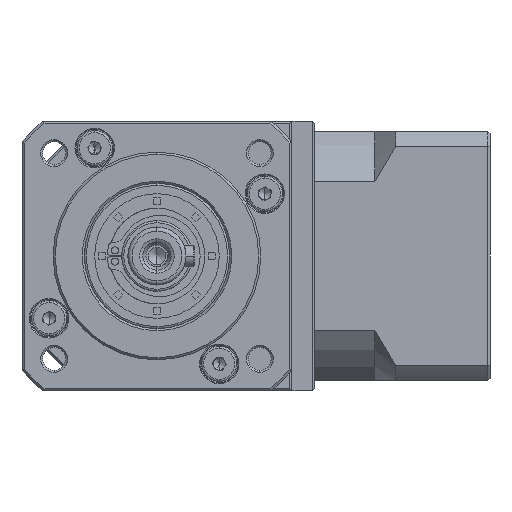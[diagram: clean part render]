
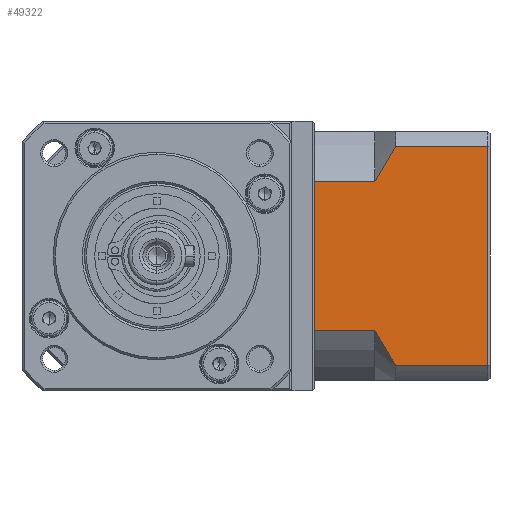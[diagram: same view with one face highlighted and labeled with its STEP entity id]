
A CAD part, left-side view. The second image highlights one B-rep face of the part: STEP entity #49322.
In plain terms, the highlighted planar face has unit normal (-1, 0, 0).
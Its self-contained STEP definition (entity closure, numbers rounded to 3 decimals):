
#1155 = ORIENTED_EDGE ( 'NONE', *, *, #34444, .F. ) ;
#2850 = CARTESIAN_POINT ( 'NONE',  ( 16.666, 3.458, 82.7 ) ) ;
#4746 = CARTESIAN_POINT ( 'NONE',  ( 16.666, -16.042, 86.242 ) ) ;
#6900 = ORIENTED_EDGE ( 'NONE', *, *, #90478, .F. ) ;
#7075 = DIRECTION ( 'NONE',  ( 0., 1., 0. ) ) ;
#7473 = CARTESIAN_POINT ( 'NONE',  ( 16.666, -38.242, 86.242 ) ) ;
#8081 = LINE ( 'NONE', #92946, #139015 ) ;
#10685 = AXIS2_PLACEMENT_3D ( 'NONE', #151334, #75192, #164010 ) ;
#11706 = DIRECTION ( 'NONE',  ( 0., -1., 0. ) ) ;
#18620 = CARTESIAN_POINT ( 'NONE',  ( 16.666, -14.27, 136.419 ) ) ;
#19741 = EDGE_CURVE ( 'NONE', #121118, #79832, #106049, .T. ) ;
#20076 = ORIENTED_EDGE ( 'NONE', *, *, #137047, .T. ) ;
#20712 = ORIENTED_EDGE ( 'NONE', *, *, #114582, .T. ) ;
#21124 = CARTESIAN_POINT ( 'NONE',  ( 16.666, -38.242, 82.7 ) ) ;
#34444 = EDGE_CURVE ( 'NONE', #64197, #101096, #86023, .T. ) ;
#37302 = CARTESIAN_POINT ( 'NONE',  ( 16.666, 3.458, 130.728 ) ) ;
#42605 = DIRECTION ( 'NONE',  ( 0., 1., 0. ) ) ;
#43284 = EDGE_CURVE ( 'NONE', #121118, #48441, #104431, .T. ) ;
#45398 = LINE ( 'NONE', #2850, #71034 ) ;
#46444 = EDGE_LOOP ( 'NONE', ( #108169, #20076, #51020, #132151, #6900, #20712, #1155, #135924 ) ) ;
#48441 = VERTEX_POINT ( 'NONE', #85853 ) ;
#49322 = ADVANCED_FACE ( 'NONE', ( #83334 ), #100146, .F. ) ;
#49449 = CARTESIAN_POINT ( 'NONE',  ( 16.666, -11.042, 139.158 ) ) ;
#51020 = ORIENTED_EDGE ( 'NONE', *, *, #19741, .F. ) ;
#55237 = CARTESIAN_POINT ( 'NONE',  ( 16.666, -11.042, 94.672 ) ) ;
#56558 = VERTEX_POINT ( 'NONE', #155170 ) ;
#56859 = CARTESIAN_POINT ( 'NONE',  ( 16.666, -12.594, 133.611 ) ) ;
#64197 = VERTEX_POINT ( 'NONE', #114774 ) ;
#67469 = B_SPLINE_CURVE_WITH_KNOTS ( 'NONE', 3,
 ( #55237, #143969, #67955, #156709, #80674, #4746 ),
 .UNSPECIFIED., .F., .F.,
 ( 4, 2, 4 ),
 ( 0.1, 0.104, 0.109 ),
 .UNSPECIFIED. ) ;
#67955 = CARTESIAN_POINT ( 'NONE',  ( 16.666, -12.593, 91.79 ) ) ;
#69550 = CARTESIAN_POINT ( 'NONE',  ( 16.666, -11.042, 130.728 ) ) ;
#71034 = VECTOR ( 'NONE', #92066, 1000. ) ;
#75192 = DIRECTION ( 'NONE',  ( 1., 0., 0. ) ) ;
#79832 = VERTEX_POINT ( 'NONE', #124505 ) ;
#80674 = CARTESIAN_POINT ( 'NONE',  ( 16.666, -15.141, 87.605 ) ) ;
#80716 = CARTESIAN_POINT ( 'NONE',  ( 16.666, -16.042, 139.158 ) ) ;
#81170 = EDGE_CURVE ( 'NONE', #138988, #56558, #8081, .T. ) ;
#82069 = VECTOR ( 'NONE', #7075, 1000. ) ;
#83334 = FACE_OUTER_BOUND ( 'NONE', #46444, .T. ) ;
#85853 = CARTESIAN_POINT ( 'NONE',  ( 16.666, -11.042, 130.728 ) ) ;
#86023 = LINE ( 'NONE', #146312, #82069 ) ;
#90478 = EDGE_CURVE ( 'NONE', #133202, #48441, #151923, .T. ) ;
#92066 = DIRECTION ( 'NONE',  ( 0., 0., -1. ) ) ;
#92946 = CARTESIAN_POINT ( 'NONE',  ( 16.666, -11.042, 86.242 ) ) ;
#95842 = DIRECTION ( 'NONE',  ( 0., -1., 0. ) ) ;
#95945 = DIRECTION ( 'NONE',  ( 0., 0., 1. ) ) ;
#100146 = PLANE ( 'NONE',  #10685 ) ;
#101096 = VERTEX_POINT ( 'NONE', #111690 ) ;
#104431 = B_SPLINE_CURVE_WITH_KNOTS ( 'NONE', 3,
 ( #132811, #107190, #18620, #56859, #145628, #69550 ),
 .UNSPECIFIED., .F., .F.,
 ( 4, 2, 4 ),
 ( 0.052, 0.057, 0.062 ),
 .UNSPECIFIED. ) ;
#106049 = LINE ( 'NONE', #49449, #135911 ) ;
#107190 = CARTESIAN_POINT ( 'NONE',  ( 16.666, -15.143, 137.798 ) ) ;
#108093 = VECTOR ( 'NONE', #95945, 1000. ) ;
#108169 = ORIENTED_EDGE ( 'NONE', *, *, #81170, .F. ) ;
#111690 = CARTESIAN_POINT ( 'NONE',  ( 16.666, 3.458, 94.672 ) ) ;
#112112 = LINE ( 'NONE', #21124, #108093 ) ;
#114080 = VECTOR ( 'NONE', #95842, 1000. ) ;
#114582 = EDGE_CURVE ( 'NONE', #133202, #101096, #45398, .T. ) ;
#114774 = CARTESIAN_POINT ( 'NONE',  ( 16.666, -11.042, 94.672 ) ) ;
#120280 = CARTESIAN_POINT ( 'NONE',  ( 16.666, -11.042, 130.728 ) ) ;
#121118 = VERTEX_POINT ( 'NONE', #80716 ) ;
#122161 = EDGE_CURVE ( 'NONE', #64197, #56558, #67469, .T. ) ;
#124505 = CARTESIAN_POINT ( 'NONE',  ( 16.666, -38.242, 139.158 ) ) ;
#132151 = ORIENTED_EDGE ( 'NONE', *, *, #43284, .T. ) ;
#132811 = CARTESIAN_POINT ( 'NONE',  ( 16.666, -16.042, 139.158 ) ) ;
#133202 = VERTEX_POINT ( 'NONE', #37302 ) ;
#135911 = VECTOR ( 'NONE', #11706, 1000. ) ;
#135924 = ORIENTED_EDGE ( 'NONE', *, *, #122161, .T. ) ;
#137047 = EDGE_CURVE ( 'NONE', #138988, #79832, #112112, .T. ) ;
#138988 = VERTEX_POINT ( 'NONE', #7473 ) ;
#139015 = VECTOR ( 'NONE', #42605, 1000. ) ;
#143969 = CARTESIAN_POINT ( 'NONE',  ( 16.666, -11.793, 93.216 ) ) ;
#145628 = CARTESIAN_POINT ( 'NONE',  ( 16.666, -11.79, 132.18 ) ) ;
#146312 = CARTESIAN_POINT ( 'NONE',  ( 16.666, -11.042, 94.672 ) ) ;
#151334 = CARTESIAN_POINT ( 'NONE',  ( 16.666, -38.742, 82.7 ) ) ;
#151923 = LINE ( 'NONE', #120280, #114080 ) ;
#155170 = CARTESIAN_POINT ( 'NONE',  ( 16.666, -16.042, 86.242 ) ) ;
#156709 = CARTESIAN_POINT ( 'NONE',  ( 16.666, -14.267, 88.985 ) ) ;
#164010 = DIRECTION ( 'NONE',  ( 0., 1., 0. ) ) ;
